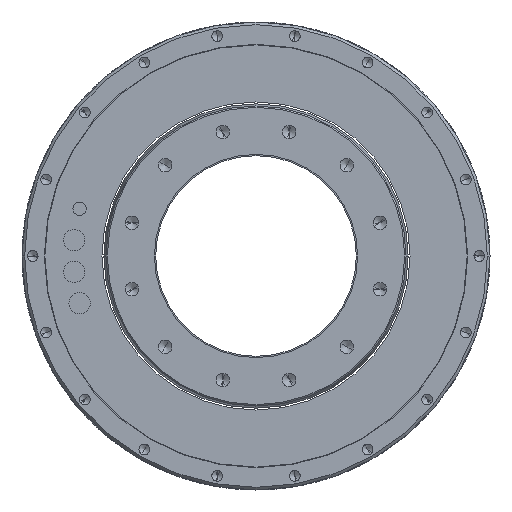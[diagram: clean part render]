
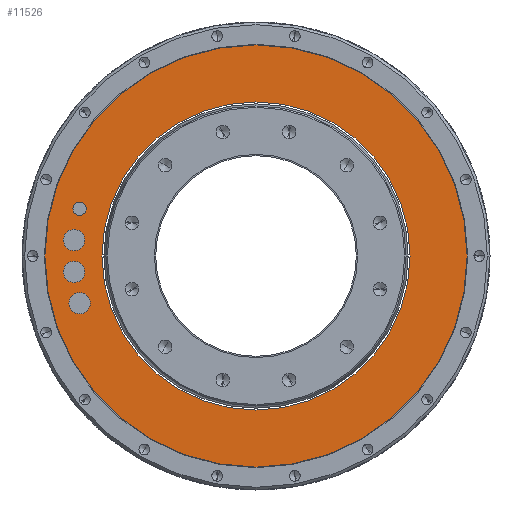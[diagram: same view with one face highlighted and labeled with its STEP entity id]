
A CAD part, left-side view. The second image highlights one B-rep face of the part: STEP entity #11526.
In plain terms, the highlighted planar face has unit normal (-1, 0, 0).
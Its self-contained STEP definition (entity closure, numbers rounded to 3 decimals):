
#11105=CARTESIAN_POINT('',(-114.,0.,0.));
#11106=DIRECTION('',(-1.,0.,0.));
#11107=DIRECTION('',(0.,1.,0.));
#11108=AXIS2_PLACEMENT_3D('',#11105,#11106,#11107);
#11110=CARTESIAN_POINT('',(-114.,0.,0.));
#11111=DIRECTION('',(1.,0.,0.));
#11112=DIRECTION('',(0.,1.,0.));
#11113=AXIS2_PLACEMENT_3D('',#11110,#11111,#11112);
#11115=CARTESIAN_POINT('',(-114.,0.,0.));
#11116=DIRECTION('',(-1.,0.,0.));
#11117=DIRECTION('',(0.,1.,0.));
#11118=AXIS2_PLACEMENT_3D('',#11115,#11116,#11117);
#11120=CARTESIAN_POINT('',(-114.,0.,0.));
#11121=DIRECTION('',(1.,0.,0.));
#11122=DIRECTION('',(0.,1.,0.));
#11123=AXIS2_PLACEMENT_3D('',#11120,#11121,#11122);
#11125=CARTESIAN_POINT('',(-114.,65.949,-17.671));
#11126=DIRECTION('',(-1.,0.,0.));
#11127=DIRECTION('',(0.,0.,1.));
#11128=AXIS2_PLACEMENT_3D('',#11125,#11126,#11127);
#11130=CARTESIAN_POINT('',(-114.,65.949,-17.671));
#11131=DIRECTION('',(-1.,0.,0.));
#11132=DIRECTION('',(0.,0.,-1.));
#11133=AXIS2_PLACEMENT_3D('',#11130,#11131,#11132);
#11135=CARTESIAN_POINT('',(-114.,65.949,17.671));
#11136=DIRECTION('',(-1.,0.,0.));
#11137=DIRECTION('',(0.,0.,1.));
#11138=AXIS2_PLACEMENT_3D('',#11135,#11136,#11137);
#11140=CARTESIAN_POINT('',(-114.,65.949,17.671));
#11141=DIRECTION('',(-1.,0.,0.));
#11142=DIRECTION('',(0.,0.,-1.));
#11143=AXIS2_PLACEMENT_3D('',#11140,#11141,#11142);
#11145=CARTESIAN_POINT('',(-114.,68.015,5.951));
#11146=DIRECTION('',(-1.,0.,0.));
#11147=DIRECTION('',(0.,0.,1.));
#11148=AXIS2_PLACEMENT_3D('',#11145,#11146,#11147);
#11150=CARTESIAN_POINT('',(-114.,68.015,5.951));
#11151=DIRECTION('',(-1.,0.,0.));
#11152=DIRECTION('',(0.,0.,-1.));
#11153=AXIS2_PLACEMENT_3D('',#11150,#11151,#11152);
#11155=CARTESIAN_POINT('',(-114.,68.015,-5.951));
#11156=DIRECTION('',(-1.,0.,0.));
#11157=DIRECTION('',(0.,0.,1.));
#11158=AXIS2_PLACEMENT_3D('',#11155,#11156,#11157);
#11160=CARTESIAN_POINT('',(-114.,68.015,-5.951));
#11161=DIRECTION('',(-1.,0.,0.));
#11162=DIRECTION('',(0.,0.,-1.));
#11163=AXIS2_PLACEMENT_3D('',#11160,#11161,#11162);
#11314=CARTESIAN_POINT('',(-114.,78.95,0.));
#11316=VERTEX_POINT('',#11314);
#11317=CARTESIAN_POINT('',(-114.,57.6,0.));
#11319=VERTEX_POINT('',#11317);
#11334=CARTESIAN_POINT('',(-114.,-78.95,0.));
#11336=VERTEX_POINT('',#11334);
#11337=CARTESIAN_POINT('',(-114.,-57.6,0.));
#11339=VERTEX_POINT('',#11337);
#11369=CARTESIAN_POINT('',(-114.,65.949,-13.671));
#11370=CARTESIAN_POINT('',(-114.,65.949,-21.671));
#11371=VERTEX_POINT('',#11369);
#11372=VERTEX_POINT('',#11370);
#11373=CARTESIAN_POINT('',(-114.,65.949,20.171));
#11374=CARTESIAN_POINT('',(-114.,65.949,15.171));
#11375=VERTEX_POINT('',#11373);
#11376=VERTEX_POINT('',#11374);
#11377=CARTESIAN_POINT('',(-114.,68.015,9.951));
#11378=CARTESIAN_POINT('',(-114.,68.015,1.951));
#11379=VERTEX_POINT('',#11377);
#11380=VERTEX_POINT('',#11378);
#11381=CARTESIAN_POINT('',(-114.,68.015,-1.951));
#11382=CARTESIAN_POINT('',(-114.,68.015,-9.951));
#11383=VERTEX_POINT('',#11381);
#11384=VERTEX_POINT('',#11382);
#11487=CARTESIAN_POINT('',(-114.,0.,0.));
#11488=DIRECTION('',(1.,0.,0.));
#11489=DIRECTION('',(0.,-1.,0.));
#11490=AXIS2_PLACEMENT_3D('',#11487,#11488,#11489);
#11491=PLANE('',#11490);
#11493=ORIENTED_EDGE('',*,*,#11492,.F.);
#11495=ORIENTED_EDGE('',*,*,#11494,.T.);
#11496=EDGE_LOOP('',(#11493,#11495));
#11497=FACE_OUTER_BOUND('',#11496,.F.);
#11498=ORIENTED_EDGE('',*,*,#11480,.F.);
#11499=ORIENTED_EDGE('',*,*,#11469,.T.);
#11500=EDGE_LOOP('',(#11498,#11499));
#11501=FACE_BOUND('',#11500,.F.);
#11503=ORIENTED_EDGE('',*,*,#11502,.T.);
#11505=ORIENTED_EDGE('',*,*,#11504,.T.);
#11506=EDGE_LOOP('',(#11503,#11505));
#11507=FACE_BOUND('',#11506,.F.);
#11509=ORIENTED_EDGE('',*,*,#11508,.T.);
#11511=ORIENTED_EDGE('',*,*,#11510,.T.);
#11512=EDGE_LOOP('',(#11509,#11511));
#11513=FACE_BOUND('',#11512,.F.);
#11515=ORIENTED_EDGE('',*,*,#11514,.T.);
#11517=ORIENTED_EDGE('',*,*,#11516,.T.);
#11518=EDGE_LOOP('',(#11515,#11517));
#11519=FACE_BOUND('',#11518,.F.);
#11521=ORIENTED_EDGE('',*,*,#11520,.T.);
#11523=ORIENTED_EDGE('',*,*,#11522,.T.);
#11524=EDGE_LOOP('',(#11521,#11523));
#11525=FACE_BOUND('',#11524,.F.);
#11526=ADVANCED_FACE('',(#11497,#11501,#11507,#11513,#11519,#11525),#11491,.F.);
#11109=CIRCLE('',#11108,57.6);
#11114=CIRCLE('',#11113,57.6);
#11119=CIRCLE('',#11118,78.95);
#11124=CIRCLE('',#11123,78.95);
#11129=CIRCLE('',#11128,4.);
#11134=CIRCLE('',#11133,4.);
#11139=CIRCLE('',#11138,2.5);
#11144=CIRCLE('',#11143,2.5);
#11149=CIRCLE('',#11148,4.);
#11154=CIRCLE('',#11153,4.);
#11159=CIRCLE('',#11158,4.);
#11164=CIRCLE('',#11163,4.);
#11469=EDGE_CURVE('',#11319,#11339,#11109,.T.);
#11480=EDGE_CURVE('',#11319,#11339,#11114,.T.);
#11492=EDGE_CURVE('',#11316,#11336,#11119,.T.);
#11494=EDGE_CURVE('',#11316,#11336,#11124,.T.);
#11502=EDGE_CURVE('',#11371,#11372,#11129,.T.);
#11504=EDGE_CURVE('',#11372,#11371,#11134,.T.);
#11508=EDGE_CURVE('',#11375,#11376,#11139,.T.);
#11510=EDGE_CURVE('',#11376,#11375,#11144,.T.);
#11514=EDGE_CURVE('',#11379,#11380,#11149,.T.);
#11516=EDGE_CURVE('',#11380,#11379,#11154,.T.);
#11520=EDGE_CURVE('',#11383,#11384,#11159,.T.);
#11522=EDGE_CURVE('',#11384,#11383,#11164,.T.);
